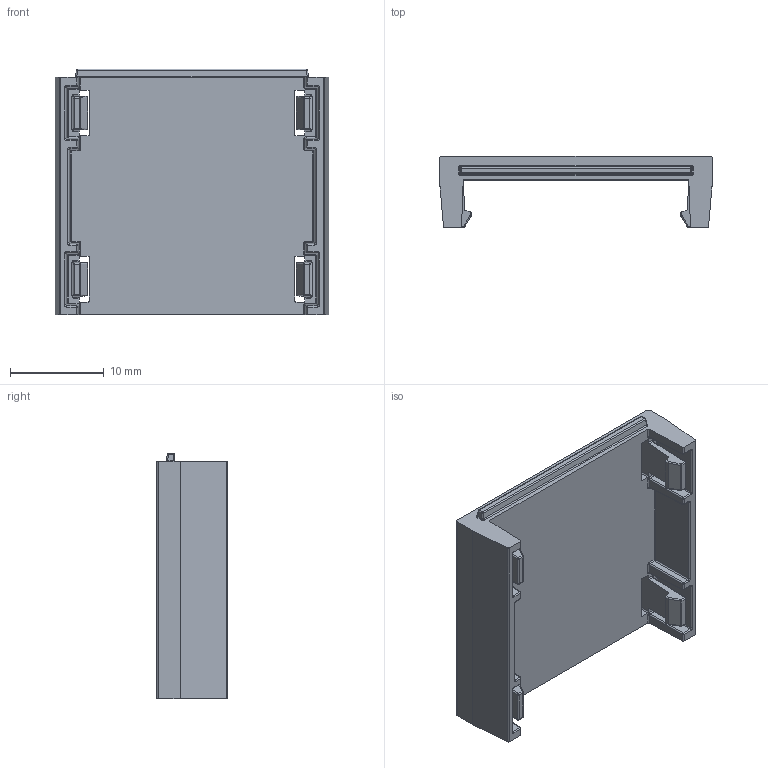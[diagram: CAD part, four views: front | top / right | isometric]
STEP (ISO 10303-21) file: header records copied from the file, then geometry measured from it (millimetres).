
FILE_DESCRIPTION (( 'STEP AP214' ), '1' );
FILE_NAME ('MCP-000395-00 REV D.STEP', '2022-09-16T15:48:53', ( '' ), ( '' ), 'SwSTEP 2.0', 'SolidWorks 2020', '' );
FILE_SCHEMA (( 'AUTOMOTIVE_DESIGN' ));
Length unit declared in the file: inch
Products named in the file (1): MCP-000395-00 REV D
Bounding box: 29.21 x 7.62 x 26.29 mm (x, y, z)
Volume: 2216.6 mm3; surface area: 2685.3 mm2
Topology: 1 solids, 1 shells, 418 faces, 984 edges, 542 vertices
Faces by surface type: cylinder 196, plane 90, bspline 76, sphere 56
Entity records: 12503 total; most frequent: CARTESIAN_POINT 3581, ORIENTED_EDGE 1912, DIRECTION 1760, EDGE_CURVE 956, AXIS2_PLACEMENT_3D 653, VERTEX_POINT 542, LINE 454, VECTOR 454
